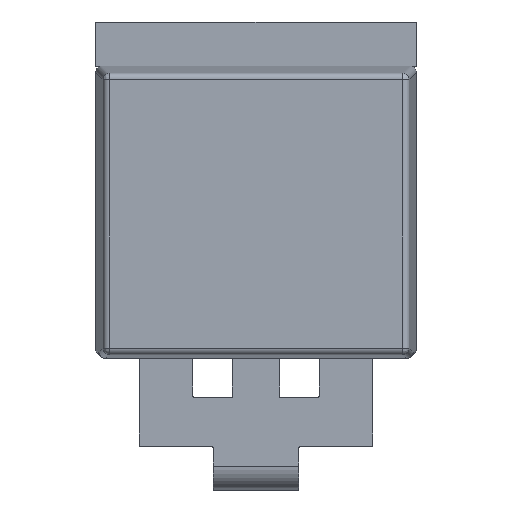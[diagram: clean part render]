
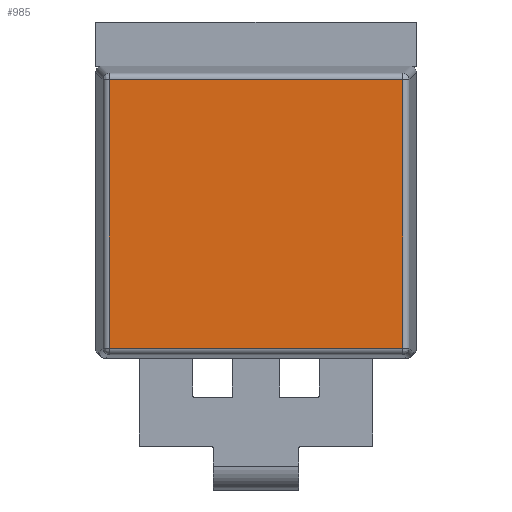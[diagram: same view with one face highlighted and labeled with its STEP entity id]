
A CAD part, top view. The second image highlights one B-rep face of the part: STEP entity #985.
In plain terms, the highlighted planar face has unit normal (0, 0, 1).
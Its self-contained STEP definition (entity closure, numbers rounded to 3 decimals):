
#12 = CARTESIAN_POINT ( 'NONE',  ( -4.652, -4.322, 4.905 ) ) ;
#57 = VECTOR ( 'NONE', #3161, 1000. ) ;
#133 = DIRECTION ( 'NONE',  ( 1., 0., 0. ) ) ;
#221 = AXIS2_PLACEMENT_3D ( 'NONE', #3076, #1724, #3648 ) ;
#355 = LINE ( 'NONE', #2503, #57 ) ;
#364 = VECTOR ( 'NONE', #133, 1000. ) ;
#599 = ORIENTED_EDGE ( 'NONE', *, *, #764, .T. ) ;
#625 = VERTEX_POINT ( 'NONE', #3448 ) ;
#710 = DIRECTION ( 'NONE',  ( 0., -1., 0. ) ) ;
#717 = CARTESIAN_POINT ( 'NONE',  ( 0., -4.322, 4.905 ) ) ;
#764 = EDGE_CURVE ( 'NONE', #910, #3624, #2089, .T. ) ;
#846 = CARTESIAN_POINT ( 'NONE',  ( 4.652, -4.322, 4.905 ) ) ;
#910 = VERTEX_POINT ( 'NONE', #1882 ) ;
#985 = ADVANCED_FACE ( 'NONE', ( #1139 ), #3096, .T. ) ;
#994 = ORIENTED_EDGE ( 'NONE', *, *, #1898, .T. ) ;
#1139 = FACE_OUTER_BOUND ( 'NONE', #2771, .T. ) ;
#1172 = EDGE_CURVE ( 'NONE', #1745, #625, #2403, .T. ) ;
#1217 = ORIENTED_EDGE ( 'NONE', *, *, #1172, .T. ) ;
#1495 = VECTOR ( 'NONE', #710, 1000. ) ;
#1724 = DIRECTION ( 'NONE',  ( 0., 0., 1. ) ) ;
#1745 = VERTEX_POINT ( 'NONE', #846 ) ;
#1755 = EDGE_CURVE ( 'NONE', #625, #910, #355, .T. ) ;
#1849 = DIRECTION ( 'NONE',  ( 0., 1., 0. ) ) ;
#1882 = CARTESIAN_POINT ( 'NONE',  ( -4.652, 4.207, 4.905 ) ) ;
#1898 = EDGE_CURVE ( 'NONE', #3624, #1745, #3240, .T. ) ;
#2089 = LINE ( 'NONE', #2921, #1495 ) ;
#2162 = ORIENTED_EDGE ( 'NONE', *, *, #1755, .T. ) ;
#2403 = LINE ( 'NONE', #3278, #3609 ) ;
#2503 = CARTESIAN_POINT ( 'NONE',  ( 0., 4.207, 4.905 ) ) ;
#2771 = EDGE_LOOP ( 'NONE', ( #599, #994, #1217, #2162 ) ) ;
#2921 = CARTESIAN_POINT ( 'NONE',  ( -4.652, 0., 4.905 ) ) ;
#3076 = CARTESIAN_POINT ( 'NONE',  ( 0., 0., 4.905 ) ) ;
#3096 = PLANE ( 'NONE',  #221 ) ;
#3161 = DIRECTION ( 'NONE',  ( -1., 0., 0. ) ) ;
#3240 = LINE ( 'NONE', #717, #364 ) ;
#3278 = CARTESIAN_POINT ( 'NONE',  ( 4.652, 0., 4.905 ) ) ;
#3448 = CARTESIAN_POINT ( 'NONE',  ( 4.652, 4.207, 4.905 ) ) ;
#3609 = VECTOR ( 'NONE', #1849, 1000. ) ;
#3624 = VERTEX_POINT ( 'NONE', #12 ) ;
#3648 = DIRECTION ( 'NONE',  ( 1., 0., 0. ) ) ;
